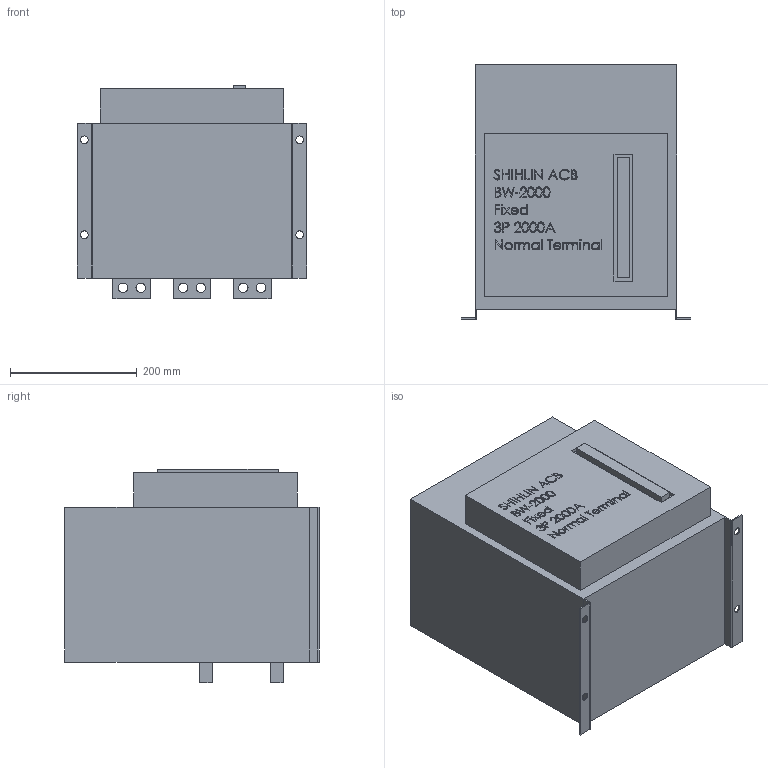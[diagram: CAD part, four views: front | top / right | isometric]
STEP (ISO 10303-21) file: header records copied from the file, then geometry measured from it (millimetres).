
FILE_DESCRIPTION (( 'STEP AP203' ), '1' );
FILE_NAME ('BW-2000-Fixed-3P-2000A-Normal Terminal.STEP', '2020-04-09T10:53:05', ( '' ), ( '' ), 'SwSTEP 2.0', 'SolidWorks 2017', '' );
FILE_SCHEMA (( 'CONFIG_CONTROL_DESIGN' ));
Length unit declared in the file: millimetre
Products named in the file (1): BW-2000-Fixed-3P-2000A-Normal Terminal
Bounding box: 362 x 402 x 337 mm (x, y, z)
Volume: 34417763.5 mm3; surface area: 762991.5 mm2
Topology: 3 solids, 3 shells, 642 faces, 1689 edges, 1126 vertices
Faces by surface type: plane 382, bspline 226, cylinder 34
Entity records: 32334 total; most frequent: CARTESIAN_POINT 17796, ORIENTED_EDGE 3378, DIRECTION 2139, EDGE_CURVE 1689, LINE 1169, VECTOR 1169, VERTEX_POINT 1126, EDGE_LOOP 747
